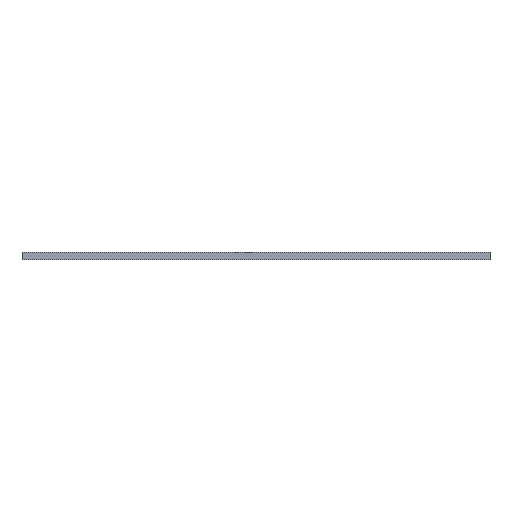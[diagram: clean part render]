
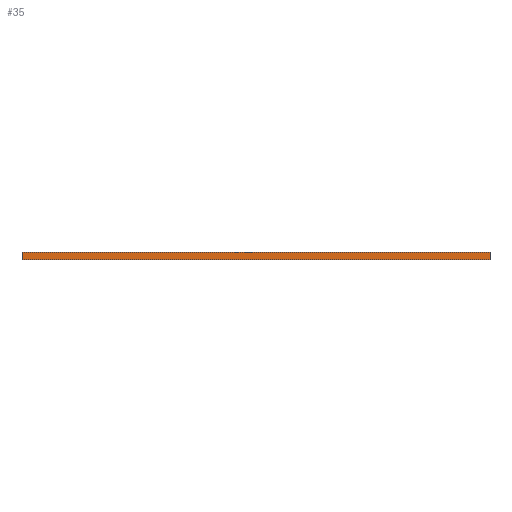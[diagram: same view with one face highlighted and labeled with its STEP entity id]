
A CAD part, front view. The second image highlights one B-rep face of the part: STEP entity #35.
In plain terms, the highlighted planar face has unit normal (0, -1, 0).
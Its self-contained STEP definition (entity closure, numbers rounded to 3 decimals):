
#35 = ADVANCED_FACE('',(#36),#70,.T.);
#36 = FACE_BOUND('',#37,.T.);
#37 = EDGE_LOOP('',(#38,#48,#56,#64));
#38 = ORIENTED_EDGE('',*,*,#39,.T.);
#39 = EDGE_CURVE('',#40,#42,#44,.T.);
#40 = VERTEX_POINT('',#41);
#41 = CARTESIAN_POINT('',(250.,-145.5,0.));
#42 = VERTEX_POINT('',#43);
#43 = CARTESIAN_POINT('',(250.,-145.5,1.51));
#44 = LINE('',#45,#46);
#45 = CARTESIAN_POINT('',(250.,-145.5,0.));
#46 = VECTOR('',#47,1.);
#47 = DIRECTION('',(0.,0.,1.));
#48 = ORIENTED_EDGE('',*,*,#49,.T.);
#49 = EDGE_CURVE('',#42,#50,#52,.T.);
#50 = VERTEX_POINT('',#51);
#51 = CARTESIAN_POINT('',(150.,-145.5,1.51));
#52 = LINE('',#53,#54);
#53 = CARTESIAN_POINT('',(250.,-145.5,1.51));
#54 = VECTOR('',#55,1.);
#55 = DIRECTION('',(-1.,0.,0.));
#56 = ORIENTED_EDGE('',*,*,#57,.F.);
#57 = EDGE_CURVE('',#58,#50,#60,.T.);
#58 = VERTEX_POINT('',#59);
#59 = CARTESIAN_POINT('',(150.,-145.5,0.));
#60 = LINE('',#61,#62);
#61 = CARTESIAN_POINT('',(150.,-145.5,0.));
#62 = VECTOR('',#63,1.);
#63 = DIRECTION('',(0.,0.,1.));
#64 = ORIENTED_EDGE('',*,*,#65,.F.);
#65 = EDGE_CURVE('',#40,#58,#66,.T.);
#66 = LINE('',#67,#68);
#67 = CARTESIAN_POINT('',(250.,-145.5,0.));
#68 = VECTOR('',#69,1.);
#69 = DIRECTION('',(-1.,0.,0.));
#70 = PLANE('',#71);
#71 = AXIS2_PLACEMENT_3D('',#72,#73,#74);
#72 = CARTESIAN_POINT('',(250.,-145.5,0.));
#73 = DIRECTION('',(0.,-1.,0.));
#74 = DIRECTION('',(-1.,0.,0.));
